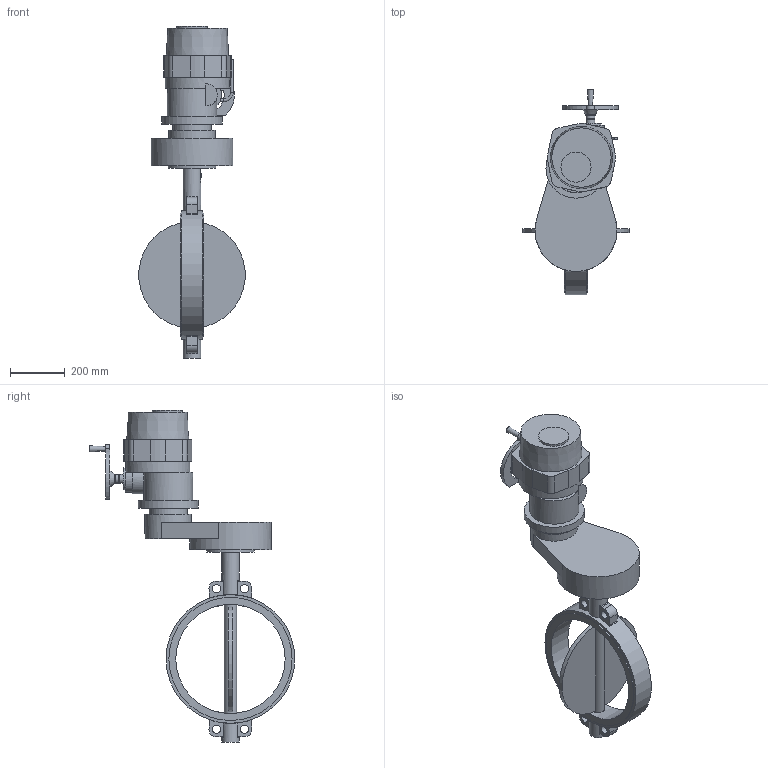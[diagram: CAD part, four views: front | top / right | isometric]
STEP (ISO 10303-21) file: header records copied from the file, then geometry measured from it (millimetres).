
FILE_DESCRIPTION(('STEP AP203'), '1');
FILE_NAME('青蜮铕 017W.YS_DN400_PN16_QT.A 150', '', ('UNSPECIFIED'), ('UNSPECIFIED'), 'ASCON STEP Converter 1.6', 'ASCON Math Kernel', '');
FILE_SCHEMA(('CONFIG_CONTROL_DESIGN'));
Length unit declared in the file: millimetre
Bounding box: 388.17 x 752.5 x 1215 mm (x, y, z)
Volume: 32191363.5 mm3; surface area: 1483392.4 mm2
Topology: 1 solids, 1 shells, 205 faces, 467 edges, 306 vertices
Faces by surface type: plane 112, cylinder 85, torus 5, cone 3
Full cylindrical faces by diameter (mm): 10 x2, 14 x12, 16 x1, 17.5 x4, 18 x4, 30 x4, 32 x2, 35 x1, 45 x1, 65 x2, 80 x1, 100 x1, 110 x1, 140 x1, 170 x1, 175 x1, 180 x1, 220 x1, 235 x1, 300 x1, 400 x1, 451 x2, 471 x1
Entity records: 8759 total; most frequent: CARTESIAN_POINT 2494, DIRECTION 1010, ORIENTED_EDGE 826, AXIS2_PLACEMENT_3D 419, EDGE_CURVE 413, EDGE_LOOP 315, VERTEX_POINT 304, FACE_BOUND 225
